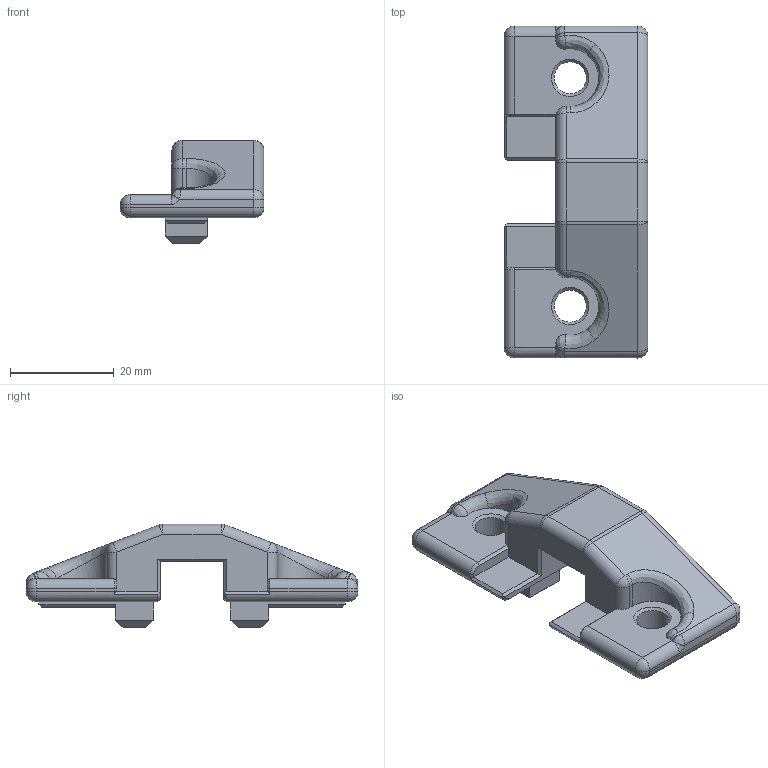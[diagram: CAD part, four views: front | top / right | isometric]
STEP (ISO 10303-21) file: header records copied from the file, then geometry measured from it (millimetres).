
FILE_DESCRIPTION(/* description */ (''),/* implementation_level */ '2;1');
FILE_NAME(/* name */ 'D:/Desktop/MGN12 rail mount v2.step',/* time_stamp */ '2019-01-13T19:08:46+01:00',/* author */ ('stwebster'),/* organization */ (''),/* preprocessor_version */ 'ST-DEVELOPER v17.2',/* originating_system */ 'Autodesk Translation Framework v7.6.0.251',/* authorisation */ '');
FILE_SCHEMA (('AUTOMOTIVE_DESIGN { 1 0 10303 214 3 1 1 }'));
Length unit declared in the file: millimetre
Products named in the file (3): MGN12 rail mount; mgn12 rail mount v1; Komponente6
Assembly tree (2 placements, depth 3):
  MGN12 rail mount
    mgn12 rail mount v1
      Komponente6
Bounding box: 27.75 x 64 x 20 mm (x, y, z)
Volume: 12043.9 mm3; surface area: 5250.1 mm2
Topology: 1 solids, 1 shells, 136 faces, 314 edges, 180 vertices
Faces by surface type: plane 66, cylinder 32, bspline 14, sphere 14, cone 10
Full cylindrical faces by diameter (mm): 6.2 x2
Entity records: 4298 total; most frequent: CARTESIAN_POINT 1193, DIRECTION 640, ORIENTED_EDGE 624, EDGE_CURVE 312, AXIS2_PLACEMENT_3D 221, LINE 198, VECTOR 198, VERTEX_POINT 180
